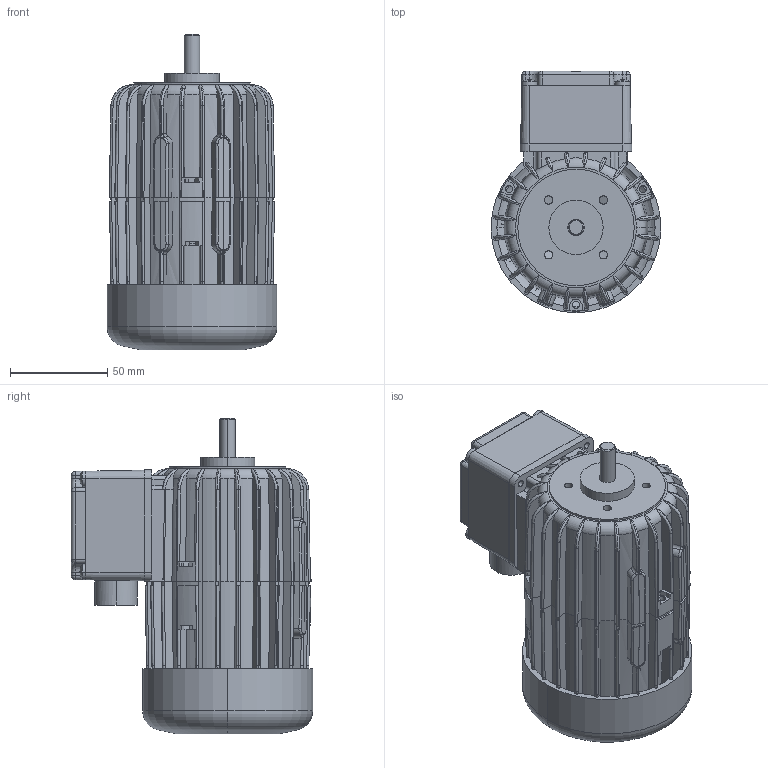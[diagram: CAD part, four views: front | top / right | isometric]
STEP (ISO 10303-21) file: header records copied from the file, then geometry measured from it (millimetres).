
FILE_DESCRIPTION (( 'STEP AP214' ), '1' );
FILE_NAME ('Dg7150-2.STEP', '2010-10-12T11:21:16', ( ' ' ), ( '' ), 'SwSTEP 2.0', 'SolidWorks 2010', '' );
FILE_SCHEMA (( 'AUTOMOTIVE_DESIGN' ));
Length unit declared in the file: millimetre
Products named in the file (1): Dg7150-2
Bounding box: 87.5 x 124.25 x 162.5 mm (x, y, z)
Surface area: 102175.7 mm2 (no closed solid volume)
Topology: 0 solids, 15 shells, 1070 faces, 3403 edges, 2313 vertices
Faces by surface type: cylinder 430, plane 338, torus 147, cone 95, bspline 52, sphere 8
Entity records: 53874 total; most frequent: CARTESIAN_POINT 13627, DIRECTION 5939, ORIENTED_EDGE 5652, EDGE_CURVE 3403, AXIS2_PLACEMENT_3D 2314, VERTEX_POINT 2313, VECTOR 1311, LINE 1311
